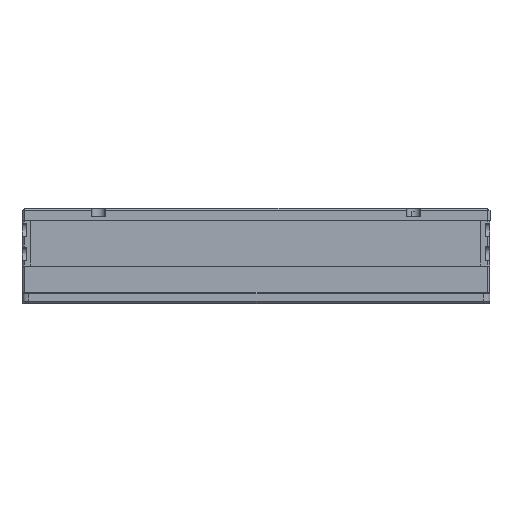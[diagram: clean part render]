
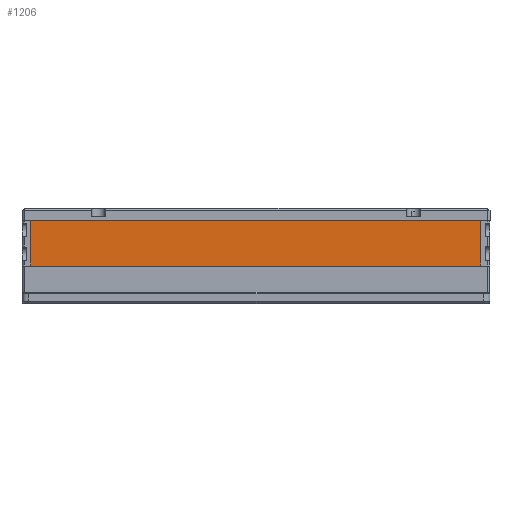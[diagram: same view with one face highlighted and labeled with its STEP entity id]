
A CAD part, left-side view. The second image highlights one B-rep face of the part: STEP entity #1206.
In plain terms, the highlighted planar face has unit normal (-1, 0, 0).
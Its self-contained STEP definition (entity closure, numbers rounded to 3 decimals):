
#1206=ADVANCED_FACE('',(#2064),#1696,.T.);
#1696=PLANE('',#10792);
#2064=FACE_OUTER_BOUND('',#2566,.T.);
#2566=EDGE_LOOP('',(#4016,#4017,#4018,#4019));
#4016=ORIENTED_EDGE('',*,*,#7434,.T.);
#4017=ORIENTED_EDGE('',*,*,#7435,.T.);
#4018=ORIENTED_EDGE('',*,*,#7425,.F.);
#4019=ORIENTED_EDGE('',*,*,#7411,.T.);
#6274=VERTEX_POINT('',#15277);
#6275=VERTEX_POINT('',#15279);
#6285=VERTEX_POINT('',#15305);
#6292=VERTEX_POINT('',#15321);
#7411=EDGE_CURVE('',#6275,#6274,#8722,.T.);
#7425=EDGE_CURVE('',#6275,#6285,#8734,.T.);
#7434=EDGE_CURVE('',#6274,#6292,#8741,.T.);
#7435=EDGE_CURVE('',#6292,#6285,#8742,.T.);
#8722=LINE('',#15278,#9776);
#8734=LINE('',#15304,#9788);
#8741=LINE('',#15322,#9795);
#8742=LINE('',#15324,#9796);
#9776=VECTOR('',#12331,1.);
#9788=VECTOR('',#12351,1.);
#9795=VECTOR('',#12364,1.);
#9796=VECTOR('',#12367,1.);
#10792=AXIS2_PLACEMENT_3D('',#15325,#12368,#12369);
#12331=DIRECTION('',(0.,1.,0.));
#12351=DIRECTION('',(0.,0.,-1.));
#12364=DIRECTION('',(0.,0.,-1.));
#12367=DIRECTION('',(0.,-1.,0.));
#12368=DIRECTION('',(-1.,0.,0.));
#12369=DIRECTION('',(0.,-1.,0.));
#15277=CARTESIAN_POINT('',(-82.25,106.,0.2));
#15278=CARTESIAN_POINT('',(-82.25,-88.,0.2));
#15279=CARTESIAN_POINT('',(-82.25,-94.,0.2));
#15304=CARTESIAN_POINT('',(-82.25,-94.,2.));
#15305=CARTESIAN_POINT('',(-82.25,-94.,-19.9));
#15321=CARTESIAN_POINT('',(-82.25,106.,-19.9));
#15322=CARTESIAN_POINT('',(-82.25,106.,2.));
#15324=CARTESIAN_POINT('',(-82.25,1867.2,-19.9));
#15325=CARTESIAN_POINT('',(-82.25,-88.,2.));
